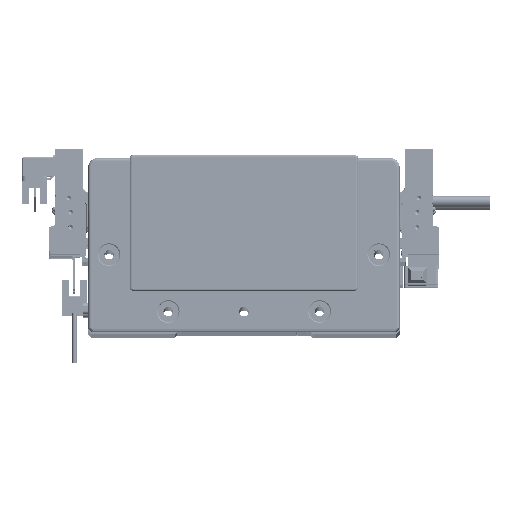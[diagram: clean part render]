
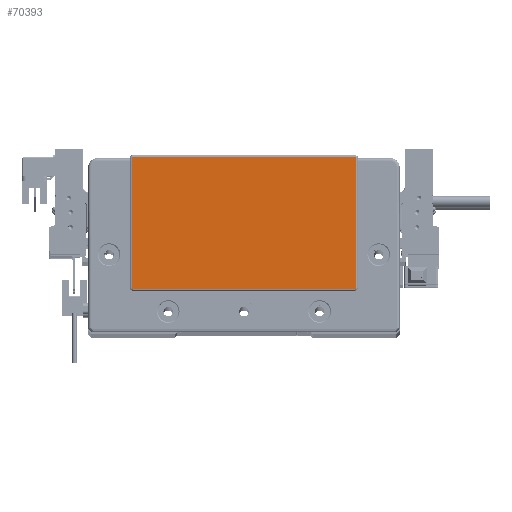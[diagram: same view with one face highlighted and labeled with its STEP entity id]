
A CAD part, top view. The second image highlights one B-rep face of the part: STEP entity #70393.
In plain terms, the highlighted planar face has unit normal (0, 0, 1) as drawn and (0, 0, -1) by its records, which use the part's own axes.
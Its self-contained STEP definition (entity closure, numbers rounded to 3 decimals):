
#259 = DIRECTION ( 'NONE',  ( 0., -1., 0. ) ) ;
#760 = LINE ( 'NONE', #85614, #59121 ) ;
#1448 = ORIENTED_EDGE ( 'NONE', *, *, #49539, .T. ) ;
#4614 = LINE ( 'NONE', #66951, #42427 ) ;
#6965 = DIRECTION ( 'NONE',  ( 0., 0., -1. ) ) ;
#9415 = ORIENTED_EDGE ( 'NONE', *, *, #95131, .T. ) ;
#9423 = CIRCLE ( 'NONE', #37128, 0.5 ) ;
#10611 = AXIS2_PLACEMENT_3D ( 'NONE', #85685, #6965, #31476 ) ;
#12970 = VERTEX_POINT ( 'NONE', #86437 ) ;
#15452 = CARTESIAN_POINT ( 'NONE',  ( -58.75, 45.3, -2. ) ) ;
#15993 = CARTESIAN_POINT ( 'NONE',  ( 58.75, -23.8, -2. ) ) ;
#18810 = CARTESIAN_POINT ( 'NONE',  ( 59.25, 45.3, -2. ) ) ;
#20152 = EDGE_LOOP ( 'NONE', ( #96117, #1448, #75047, #9415, #99949, #86143, #80927, #53387 ) ) ;
#21613 = DIRECTION ( 'NONE',  ( 0., 0., -1. ) ) ;
#21969 = CARTESIAN_POINT ( 'NONE',  ( -58.75, -23.8, -2. ) ) ;
#23709 = CARTESIAN_POINT ( 'NONE',  ( 0., 0., -2. ) ) ;
#24580 = CARTESIAN_POINT ( 'NONE',  ( 58.75, 45.3, -2. ) ) ;
#25739 = PLANE ( 'NONE',  #40918 ) ;
#27469 = EDGE_CURVE ( 'NONE', #66069, #12970, #92838, .T. ) ;
#29270 = EDGE_CURVE ( 'NONE', #12970, #68685, #92991, .T. ) ;
#29627 = LINE ( 'NONE', #21969, #87531 ) ;
#29764 = DIRECTION ( 'NONE',  ( -1., 0., 0. ) ) ;
#30684 = CARTESIAN_POINT ( 'NONE',  ( -58.75, 45.8, -2. ) ) ;
#31476 = DIRECTION ( 'NONE',  ( -1., 0., 0. ) ) ;
#32022 = VERTEX_POINT ( 'NONE', #75264 ) ;
#33640 = EDGE_CURVE ( 'NONE', #68685, #91186, #760, .T. ) ;
#35265 = DIRECTION ( 'NONE',  ( 0., 1., 0. ) ) ;
#35787 = AXIS2_PLACEMENT_3D ( 'NONE', #15452, #21613, #29764 ) ;
#37128 = AXIS2_PLACEMENT_3D ( 'NONE', #100486, #39113, #70319 ) ;
#39113 = DIRECTION ( 'NONE',  ( 0., 0., -1. ) ) ;
#40918 = AXIS2_PLACEMENT_3D ( 'NONE', #23709, #70747, #47690 ) ;
#42427 = VECTOR ( 'NONE', #35265, 1000. ) ;
#46431 = CIRCLE ( 'NONE', #10611, 0.5 ) ;
#47690 = DIRECTION ( 'NONE',  ( -1., 0., 0. ) ) ;
#49539 = EDGE_CURVE ( 'NONE', #91186, #65713, #46431, .T. ) ;
#53376 = VECTOR ( 'NONE', #92333, 1000. ) ;
#53387 = ORIENTED_EDGE ( 'NONE', *, *, #29270, .T. ) ;
#55588 = EDGE_CURVE ( 'NONE', #74861, #32022, #4614, .T. ) ;
#56993 = CIRCLE ( 'NONE', #35787, 0.5 ) ;
#59121 = VECTOR ( 'NONE', #259, 1000. ) ;
#62368 = DIRECTION ( 'NONE',  ( 0., 0., -1. ) ) ;
#63532 = AXIS2_PLACEMENT_3D ( 'NONE', #24580, #62368, #85440 ) ;
#63547 = FACE_OUTER_BOUND ( 'NONE', #20152, .T. ) ;
#65713 = VERTEX_POINT ( 'NONE', #15993 ) ;
#66069 = VERTEX_POINT ( 'NONE', #30684 ) ;
#66749 = VERTEX_POINT ( 'NONE', #75456 ) ;
#66951 = CARTESIAN_POINT ( 'NONE',  ( -59.25, 45.3, -2. ) ) ;
#68313 = CARTESIAN_POINT ( 'NONE',  ( 58.75, 45.8, -2. ) ) ;
#68685 = VERTEX_POINT ( 'NONE', #18810 ) ;
#70319 = DIRECTION ( 'NONE',  ( -1., 0., 0. ) ) ;
#70393 = ADVANCED_FACE ( 'NONE', ( #63547 ), #25739, .T. ) ;
#70747 = DIRECTION ( 'NONE',  ( 0., 0., -1. ) ) ;
#74861 = VERTEX_POINT ( 'NONE', #80378 ) ;
#75047 = ORIENTED_EDGE ( 'NONE', *, *, #92158, .T. ) ;
#75264 = CARTESIAN_POINT ( 'NONE',  ( -59.25, 45.3, -2. ) ) ;
#75456 = CARTESIAN_POINT ( 'NONE',  ( -58.75, -23.8, -2. ) ) ;
#80378 = CARTESIAN_POINT ( 'NONE',  ( -59.25, -23.3, -2. ) ) ;
#80927 = ORIENTED_EDGE ( 'NONE', *, *, #27469, .T. ) ;
#84339 = DIRECTION ( 'NONE',  ( -1., 0., 0. ) ) ;
#85440 = DIRECTION ( 'NONE',  ( -1., 0., 0. ) ) ;
#85614 = CARTESIAN_POINT ( 'NONE',  ( 59.25, -23.3, -2. ) ) ;
#85685 = CARTESIAN_POINT ( 'NONE',  ( 58.75, -23.3, -2. ) ) ;
#86143 = ORIENTED_EDGE ( 'NONE', *, *, #86478, .T. ) ;
#86437 = CARTESIAN_POINT ( 'NONE',  ( 58.75, 45.8, -2. ) ) ;
#86478 = EDGE_CURVE ( 'NONE', #32022, #66069, #56993, .T. ) ;
#87531 = VECTOR ( 'NONE', #84339, 1000. ) ;
#89248 = CARTESIAN_POINT ( 'NONE',  ( 59.25, -23.3, -2. ) ) ;
#91186 = VERTEX_POINT ( 'NONE', #89248 ) ;
#92158 = EDGE_CURVE ( 'NONE', #65713, #66749, #29627, .T. ) ;
#92333 = DIRECTION ( 'NONE',  ( 1., 0., 0. ) ) ;
#92838 = LINE ( 'NONE', #68313, #53376 ) ;
#92991 = CIRCLE ( 'NONE', #63532, 0.5 ) ;
#95131 = EDGE_CURVE ( 'NONE', #66749, #74861, #9423, .T. ) ;
#96117 = ORIENTED_EDGE ( 'NONE', *, *, #33640, .T. ) ;
#99949 = ORIENTED_EDGE ( 'NONE', *, *, #55588, .T. ) ;
#100486 = CARTESIAN_POINT ( 'NONE',  ( -58.75, -23.3, -2. ) ) ;
